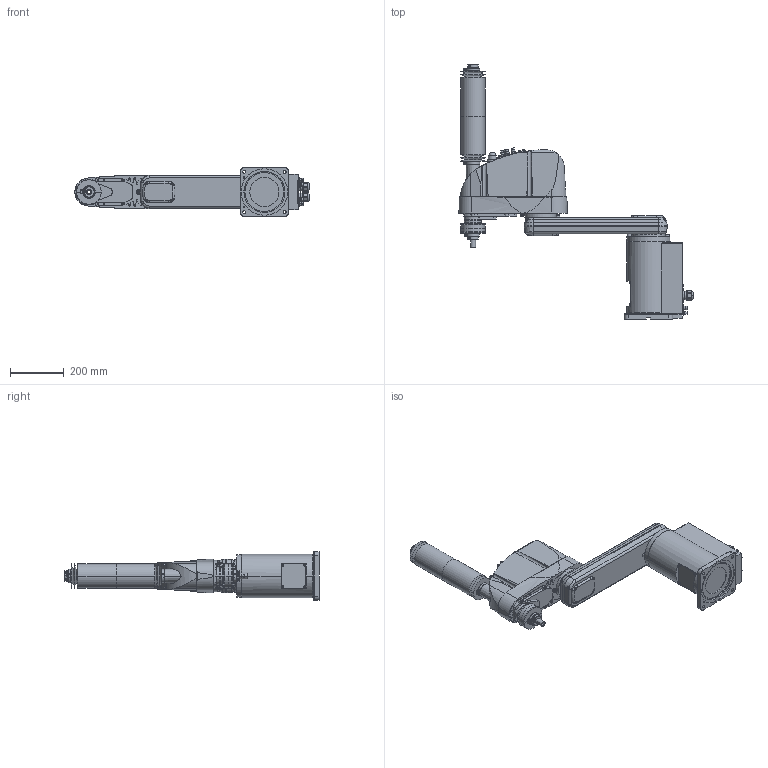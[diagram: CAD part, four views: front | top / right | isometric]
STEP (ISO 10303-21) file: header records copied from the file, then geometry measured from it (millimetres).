
FILE_DESCRIPTION( ( '' ), '1' );
FILE_NAME( '//expscmdclustefs.cadenas.external/client_exchange/iodir/jobs/output/wkb51543032_no0/STEP/G6_653C_2_14b.stp', '2012-11-23T11:43:59', ( '' ), ( '' ), ' ', ' ', ' ' );
FILE_SCHEMA( ( 'automotive_design' ) );
Length unit declared in the file: millimetre
Products named in the file (8): 1; 2; 3; 4; 5; 6; 7; 8
Bounding box: 867.5 x 942 x 180 mm (x, y, z)
Volume: 22823073.6 mm3; surface area: 1186400.2 mm2
Topology: 8 solids, 8 shells, 1767 faces, 4309 edges, 2762 vertices
Faces by surface type: plane 892, cylinder 583, cone 224, torus 67, sphere 1
Entity records: 104228 total; most frequent: CARTESIAN_POINT 12067, DIRECTION 9244, STYLED_ITEM 8820, PRESENTATION_STYLE_ASSIGNMENT 8820, COLOUR_RGB 8820, ORIENTED_EDGE 8566, EDGE_CURVE 4283, CURVE_STYLE 4283
